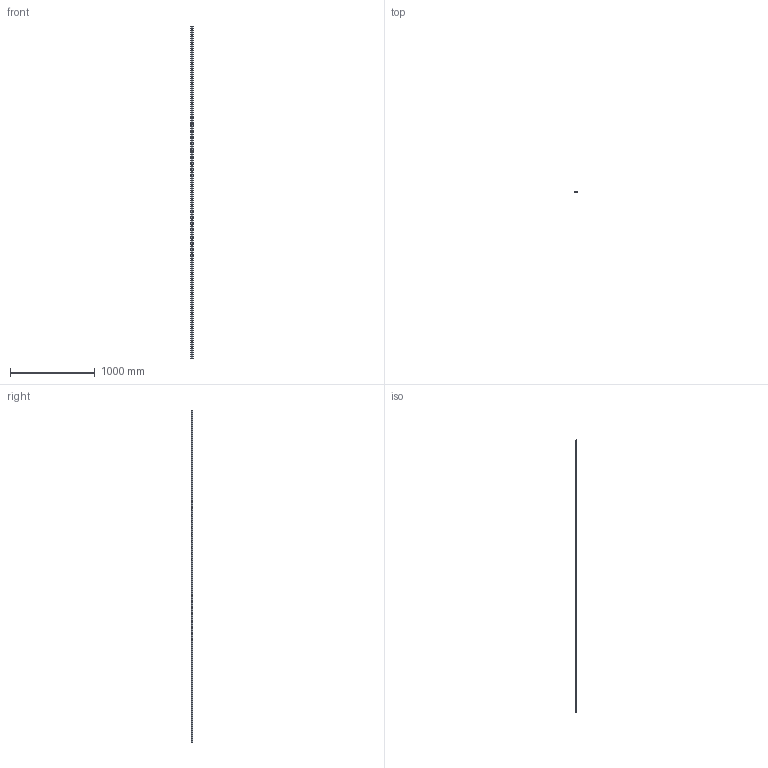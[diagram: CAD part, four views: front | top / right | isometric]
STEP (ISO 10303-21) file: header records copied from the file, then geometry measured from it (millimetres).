
FILE_DESCRIPTION(('STEP AP214'),'1');
FILE_NAME('rail_tex26-3920.stp','2019-03-08T08:29:54',('TraceParts'),('TraceParts S.A.'),'Spatial InterOp 3D',' ',' ');
FILE_SCHEMA(('automotive_design'));
Length unit declared in the file: millimetre
Products named in the file (1): rail_tex26-3920
Bounding box: 26.06 x 14 x 3920 mm (x, y, z)
Volume: 405816.4 mm3; surface area: 345491.4 mm2
Topology: 1 solids, 1 shells, 842 faces, 2181 edges, 1454 vertices
Faces by surface type: plane 593, bspline 139, cylinder 110
Entity records: 53700 total; most frequent: CARTESIAN_POINT 26829, ORIENTED_EDGE 4362, DIRECTION 3531, EDGE_CURVE 2181, LINE 1683, VECTOR 1683, VERTEX_POINT 1454, EDGE_LOOP 1053
